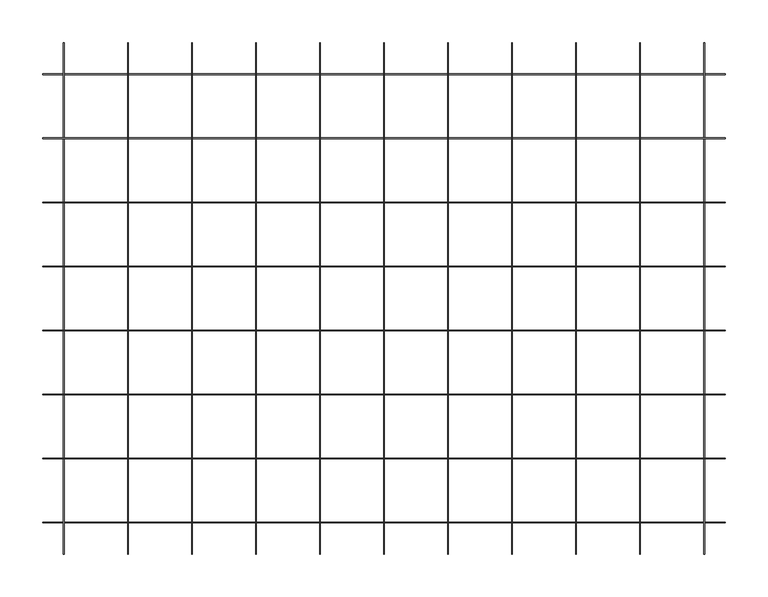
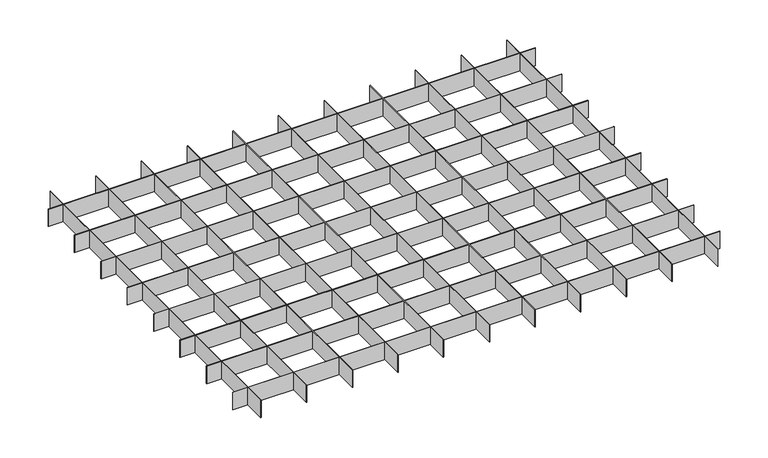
"""IFC4 building model written with IfcOpenShell, lengths in millimetres: proxy geometry, durlum_QUADRA_panel : durlum_QUADRA_length_cut."""

from ifc_helpers import new_model, si_unit, origin, origin_with_axes, place, context, project, spatial, polyline, outline, extrude, source, transform, mapped, element, save


def generic_models_3a5bc9b1(model_context):
    return source(origin(), model_context, "Body", "SweptSolid", [
        extrude(outline(polyline([(299.6, 299.5), (300.4, 299.5), (300.4, -299.5), (299.6, -299.5), (299.6, 299.5)])), origin_with_axes(), (0.0, 0.0, 1.0), 30.0),
        extrude(outline(polyline([(224.6, 299.5), (225.4, 299.5), (225.4, -299.5), (224.6, -299.5), (224.6, 299.5)])), origin_with_axes(), (0.0, 0.0, 1.0), 30.0),
        extrude(outline(polyline([(149.6, 299.5), (150.4, 299.5), (150.4, -299.5), (149.6, -299.5), (149.6, 299.5)])), origin_with_axes(), (0.0, 0.0, 1.0), 30.0),
        extrude(outline(polyline([(74.6, 299.5), (75.4, 299.5), (75.4, -299.5), (74.6, -299.5), (74.6, 299.5)])), origin_with_axes(), (0.0, 0.0, 1.0), 30.0),
        extrude(outline(polyline([(-0.4, 299.5), (0.4, 299.5), (0.4, -299.5), (-0.4, -299.5), (-0.4, 299.5)])), origin_with_axes(), (0.0, 0.0, 1.0), 30.0),
        extrude(outline(polyline([(-75.4, 299.5), (-74.6, 299.5), (-74.6, -299.5), (-75.4, -299.5), (-75.4, 299.5)])), origin_with_axes(), (0.0, 0.0, 1.0), 30.0),
        extrude(outline(polyline([(-150.4, 299.5), (-149.6, 299.5), (-149.6, -299.5), (-150.4, -299.5), (-150.4, 299.5)])), origin_with_axes(), (0.0, 0.0, 1.0), 30.0),
        extrude(outline(polyline([(-225.4, 299.5), (-224.6, 299.5), (-224.6, -299.5), (-225.4, -299.5), (-225.4, 299.5)])), origin_with_axes(), (0.0, 0.0, 1.0), 30.0),
        extrude(outline(polyline([(-300.4, 299.5), (-299.6, 299.5), (-299.6, -299.5), (-300.4, -299.5), (-300.4, 299.5)])), origin_with_axes(), (0.0, 0.0, 1.0), 30.0),
        extrude(outline(polyline([(399.75, -187.1), (399.75, -187.9), (-399.75, -187.9), (-399.75, -187.1), (399.75, -187.1)])), origin_with_axes(), (0.0, 0.0, 1.0), 30.0),
        extrude(outline(polyline([(399.75, -112.1), (399.75, -112.9), (-399.75, -112.9), (-399.75, -112.1), (399.75, -112.1)])), origin_with_axes(), (0.0, 0.0, 1.0), 30.0),
        extrude(outline(polyline([(399.75, -37.1), (399.75, -37.9), (-399.75, -37.9), (-399.75, -37.1), (399.75, -37.1)])), origin_with_axes(), (0.0, 0.0, 1.0), 30.0),
        extrude(outline(polyline([(399.75, 37.9), (399.75, 37.1), (-399.75, 37.1), (-399.75, 37.9), (399.75, 37.9)])), origin_with_axes(), (0.0, 0.0, 1.0), 30.0),
        extrude(outline(polyline([(399.75, 112.9), (399.75, 112.1), (-399.75, 112.1), (-399.75, 112.9), (399.75, 112.9)])), origin_with_axes(), (0.0, 0.0, 1.0), 30.0),
        extrude(outline(polyline([(399.75, 187.9), (399.75, 187.1), (-399.75, 187.1), (-399.75, 187.9), (399.75, 187.9)])), origin_with_axes(), (0.0, 0.0, 1.0), 30.0),
        extrude(outline(polyline([(374.6, 299.5), (375.4, 299.5), (375.4, -299.5), (374.6, -299.5), (374.6, 299.5)])), origin_with_axes(), (0.0, 0.0, 1.0), 30.0),
        extrude(outline(polyline([(-375.4, 299.5), (-374.6, 299.5), (-374.6, -299.5), (-375.4, -299.5), (-375.4, 299.5)])), origin_with_axes(), (0.0, 0.0, 1.0), 30.0),
        extrude(outline(polyline([(399.75, -262.1), (399.75, -262.9), (-399.75, -262.9), (-399.75, -262.1), (399.75, -262.1)])), origin_with_axes(), (0.0, 0.0, 1.0), 30.0),
        extrude(outline(polyline([(399.75, 262.9), (399.75, 262.1), (-399.75, 262.1), (-399.75, 262.9), (399.75, 262.9)])), origin_with_axes(), (0.0, 0.0, 1.0), 30.0),
    ])


if __name__ == "__main__":
    model = new_model("IFC4")
    model_context = context("Model", 3, world=origin())
    ifc_project = project(units=[si_unit("LENGTHUNIT", "METRE", prefix="MILLI")], contexts=[model_context])
    site = spatial("IfcSite", under=ifc_project)
    building = spatial("IfcBuilding", under=site)
    placement = place(None, origin())
    generic_models_shape = generic_models_3a5bc9b1(model_context)
    element("IfcBuildingElementProxy", 1, Name="durlum_QUADRA_panel : durlum_QUADRA_length_cut", ObjectType="durlum_QUADRA_panel : durlum_QUADRA_length_cut", at=placement, inside=building, context=model_context, shape_type="MappedRepresentation", body=[
        mapped(generic_models_shape, transform((0.0, 0.0, 0.0), x_axis=(1.0, 0.0, 0.0), y_axis=(0.0, 1.0, 0.0), z_axis=(0.0, 0.0, 1.0))),
    ])
    save(model, "model.ifc")
